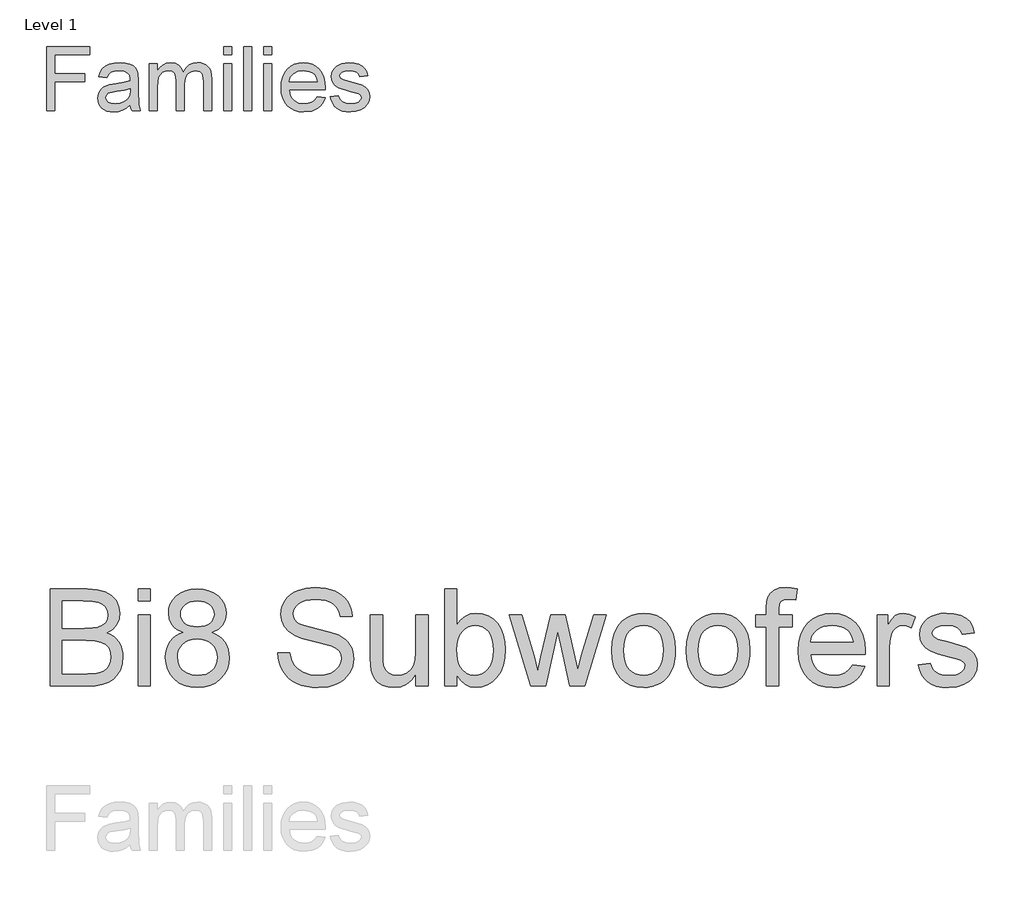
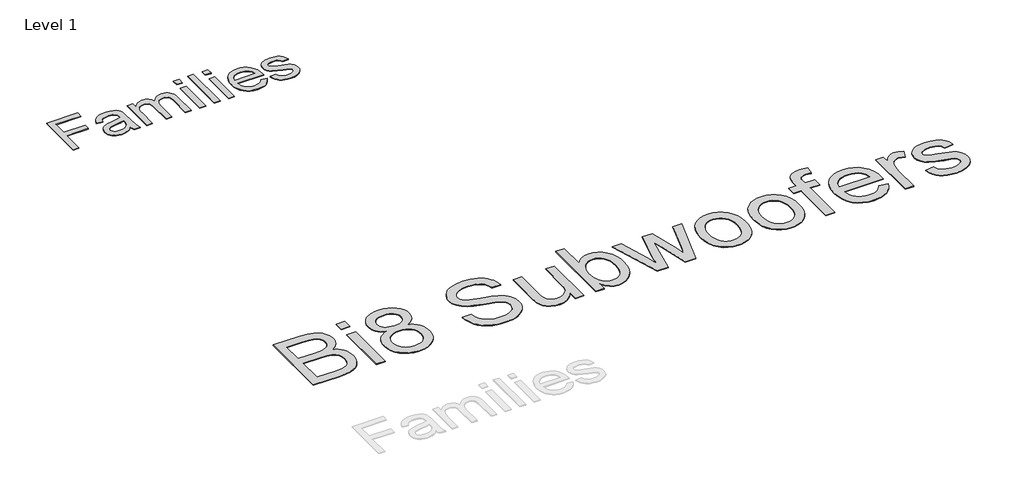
# One storey, part 2 of 8: 2 proxies.
"""IFC4 building model written with IfcOpenShell, lengths in millimetres."""

from ifc_helpers import new_model, si_unit, origin, origin_with_axes, place, context, project, spatial, polyline, outline, extrude, element, save

model = new_model("IFC4")

# Units and contexts
model_context = context("Model", 3, world=origin())
ifc_project = project(units=[si_unit("LENGTHUNIT", "METRE", prefix="MILLI")], contexts=[model_context])

# Site, building, storey
site = spatial("IfcSite", under=ifc_project)
building = spatial("IfcBuilding", under=site)
storey = spatial("IfcBuildingStorey", under=building, Name="Level 1", Elevation=0.0)

# Proxies
placement = place(None, origin())
element("IfcBuildingElementProxy", 1, Name="400mm Arial", ObjectType="400mm Arial", at=placement, inside=storey, context=model_context, shape_type="SweptSolid", body=[
    extrude(outline(polyline([(-21056.720891, 12851.3054836), (-21056.720891, 13243.0630593), (-20793.5087698, 13243.0630593), (-20793.5087698, 13194.0933624), (-21007.7511941, 13194.0933624), (-21007.7511941, 13077.7903321), (-20824.1148304, 13077.7903321), (-20824.1148304, 13028.8206351), (-21007.7511941, 13028.8206351), (-21007.7511941, 12851.3054836), (-21056.720891, 12851.3054836)])), origin_with_axes(), (0.0, 0.0, 1.0), 5.0),
    extrude(outline(polyline([(-20548.660285, 12888.0327563), (-20572.0571836, 12867.97144), (-20596.1475009, 12854.8443093), (-20621.4811893, 12847.5992809), (-20648.6082016, 12845.1842715), (-20670.4120309, 12846.6368638), (-20689.5318522, 12850.9946408), (-20705.9676654, 12858.2576024), (-20719.7194706, 12868.4257487), (-20730.5780466, 12880.8534831), (-20738.3341723, 12894.895209), (-20742.9878477, 12910.5509263), (-20744.5390729, 12927.8206351), (-20742.1957963, 12948.1210612), (-20735.1659668, 12966.5564305), (-20724.3223352, 12982.3376805), (-20710.5376524, 12994.6757487), (-20676.2493001, 13010.7439305), (-20633.879035, 13018.1085139), (-20583.8094327, 13025.855673), (-20548.9472168, 13034.9418472), (-20548.660285, 13045.8452563), (-20552.0317338, 13067.6998965), (-20562.1460804, 13081.9986654), (-20584.7658721, 13092.6151427), (-20616.2805501, 13096.1539684), (-20645.4519516, 13093.7987364), (-20665.8241107, 13086.7330404), (-20679.7163929, 13073.6656872), (-20689.4481638, 13053.3054836), (-20738.4178607, 13059.4266957), (-20729.9175056, 13086.2069987), (-20717.2327282, 13107.2486654), (-20699.1799346, 13123.3407582), (-20674.5755312, 13135.2723396), (-20644.4835568, 13142.660834), (-20609.9680501, 13145.1236654), (-20576.8632916, 13142.9477658), (-20550.6209857, 13136.4200669), (-20530.8346458, 13126.6046076), (-20517.097785, 13114.5654268), (-20507.9876997, 13099.6808387), (-20502.0816865, 13081.3291578), (-20499.690588, 13038.480673), (-20499.690588, 12977.5554836), (-20497.2038456, 12892.4801995), (-20487.4481638, 12851.3054836), (-20536.4178607, 12851.3054836), (-20544.2606638, 12868.3301048), (-20548.660285, 12888.0327563)]), holes=[polyline([(-20548.660285, 12985.9721502), (-20581.5618001, 12977.8185044), (-20627.6621789, 12970.9560518), (-20669.7933342, 12963.0176048), (-20680.7565208, 12957.5898112), (-20688.8743001, 12950.105673), (-20693.8956069, 12941.1390536), (-20695.5693759, 12931.2638169), (-20691.9229507, 12916.7020271), (-20680.9836751, 12904.7704457), (-20662.990659, 12896.8080877), (-20638.1830122, 12894.1539684), (-20611.8809289, 12897.0830641), (-20588.6394516, 12905.870351), (-20569.7975956, 12918.8181493), (-20556.6943759, 12934.228779), (-20550.8840066, 12950.105673), (-20548.9472168, 12972.103779), (-20548.660285, 12985.9721502)])]), origin_with_axes(), (0.0, 0.0, 1.0), 5.0),
    extrude(outline(polyline([(-20432.3572547, 12851.3054836), (-20432.3572547, 13139.0024533), (-20383.3875577, 13139.0024533), (-20383.3875577, 13091.6587033), (-20368.658391, 13113.405744), (-20349.720891, 13130.4423207), (-20327.2206543, 13141.4533292), (-20301.8032774, 13145.1236654), (-20274.5686657, 13141.3815963), (-20252.7379365, 13130.1553889), (-20236.4306448, 13112.1862838), (-20225.7663456, 13088.2155215), (-20207.9167954, 13113.1128344), (-20187.5565918, 13130.8966294), (-20164.6857348, 13141.5669064), (-20139.3042244, 13145.1236654), (-20119.7002057, 13143.6441732), (-20102.4932632, 13139.2056966), (-20087.683397, 13131.8082357), (-20075.2706069, 13121.4517904), (-20065.4581365, 13108.0168058), (-20058.4492291, 13091.3837269), (-20054.2438846, 13071.5525539), (-20052.8421032, 13048.5232866), (-20052.8421032, 12851.3054836), (-20101.8118001, 12851.3054836), (-20101.8118001, 13027.4816199), (-20106.3548872, 13068.369404), (-20112.7391202, 13079.6434334), (-20122.8056448, 13088.5024533), (-20135.7534431, 13094.2410896), (-20150.7814971, 13096.1539684), (-20177.3107348, 13091.2522165), (-20198.9382206, 13076.5469608), (-20207.3279874, 13065.2669537), (-20213.320678, 13051.03394), (-20218.1148304, 13013.7088927), (-20218.1148304, 12851.3054836), (-20267.0845274, 12851.3054836), (-20267.0845274, 13032.9333245), (-20269.9179791, 13060.6222449), (-20278.4183342, 13080.3727184), (-20293.3746552, 13092.2086559), (-20315.5760047, 13096.1539684), (-20334.4417717, 13093.5237601), (-20351.8250577, 13085.6331351), (-20366.1716486, 13072.6733813), (-20375.9273304, 13054.8357866), (-20381.5225009, 13030.0879173), (-20383.3875577, 12996.3973396), (-20383.3875577, 12851.3054836), (-20432.3572547, 12851.3054836)])), origin_with_axes(), (0.0, 0.0, 1.0), 5.0),
    extrude(outline(polyline([(-19979.3875577, 12851.3054836), (-19979.3875577, 13139.0024533), (-19930.4178607, 13139.0024533), (-19930.4178607, 12851.3054836), (-19979.3875577, 12851.3054836)])), origin_with_axes(), (0.0, 0.0, 1.0), 5.0),
    extrude(outline(polyline([(-19979.3875577, 13194.0933624), (-19979.3875577, 13243.0630593), (-19930.4178607, 13243.0630593), (-19930.4178607, 13194.0933624), (-19979.3875577, 13194.0933624)])), origin_with_axes(), (0.0, 0.0, 1.0), 5.0),
    extrude(outline(polyline([(-19856.9633153, 12851.3054836), (-19856.9633153, 13243.0630593), (-19807.9936183, 13243.0630593), (-19807.9936183, 12851.3054836), (-19856.9633153, 12851.3054836)])), origin_with_axes(), (0.0, 0.0, 1.0), 5.0),
    extrude(outline(polyline([(-19734.5390729, 12851.3054836), (-19734.5390729, 13139.0024533), (-19685.5693759, 13139.0024533), (-19685.5693759, 12851.3054836), (-19734.5390729, 12851.3054836)])), origin_with_axes(), (0.0, 0.0, 1.0), 5.0),
    extrude(outline(polyline([(-19734.5390729, 13194.0933624), (-19734.5390729, 13243.0630593), (-19685.5693759, 13243.0630593), (-19685.5693759, 13194.0933624), (-19734.5390729, 13194.0933624)])), origin_with_axes(), (0.0, 0.0, 1.0), 5.0),
    extrude(outline(polyline([(-19410.6886941, 12937.0024533), (-19362.6754365, 12930.8812411), (-19370.0370309, 12911.6508316), (-19379.975034, 12894.7039211), (-19392.4894457, 12880.0405096), (-19407.580266, 12867.6605972), (-19425.0920736, 12857.8272047), (-19444.8694469, 12850.8033529), (-19491.220891, 12845.1842715), (-19521.605775, 12847.6082475), (-19548.6789876, 12854.8801758), (-19572.4405288, 12867.0000563), (-19592.8903986, 12883.9678889), (-19609.3351784, 12905.3114317), (-19621.0814497, 12930.5584429), (-19628.1292125, 12959.7089223), (-19630.4784668, 12992.7628699), (-19628.1053015, 13026.937645), (-19620.9858058, 13057.0595082), (-19609.1199796, 13083.1284594), (-19592.5078229, 13105.1444987), (-19572.1117528, 13122.6353841), (-19548.8941865, 13135.1288737), (-19522.855124, 13142.6249675), (-19493.9945653, 13145.1236654), (-19466.0635461, 13142.6309452), (-19440.8045795, 13135.1527847), (-19418.2176654, 13122.6891839), (-19398.3028039, 13105.2401427), (-19382.0463231, 13083.2719253), (-19370.4345511, 13057.2507961), (-19363.4674879, 13027.1767549), (-19361.1451335, 12993.0498018), (-19361.4320653, 12979.8509381), (-19581.5087698, 12979.8509381), (-19578.6723292, 12960.3096858), (-19573.0323257, 12943.1953983), (-19564.5887592, 12928.5080759), (-19553.3416297, 12916.2477184), (-19524.9234242, 12899.6774059), (-19490.2644516, 12894.1539684), (-19464.2014782, 12896.7124438), (-19442.2511941, 12904.3878699), (-19424.4135994, 12917.6584665), (-19410.6886941, 12937.0024533)]), holes=[polyline([(-19581.5087698, 13028.8206351), (-19410.1148304, 13028.8206351), (-19416.7381732, 13054.6923207), (-19429.721838, 13073.199423), (-19443.076123, 13083.2420366), (-19458.2715539, 13090.4153321), (-19494.1858532, 13096.1539684), (-19527.1949677, 13091.5750148), (-19554.4893569, 13077.838154), (-19573.4627234, 13056.4258671), (-19581.5087698, 13028.8206351)])]), origin_with_axes(), (0.0, 0.0, 1.0), 5.0),
    extrude(outline(polyline([(-19330.5390729, 12937.0024533), (-19281.5693759, 12943.1236654), (-19273.8461278, 12922.1776427), (-19258.9017622, 12906.7789684), (-19236.6406354, 12897.3102184), (-19206.9671032, 12894.1539684), (-19177.6522357, 12897.0471976), (-19157.0409668, 12905.7268851), (-19144.8463645, 12918.3040631), (-19140.7814971, 12932.8897639), (-19144.8702755, 12945.371298), (-19157.1366107, 12954.8878699), (-19207.5409668, 12968.8518851), (-19281.2824441, 12992.8106919), (-19299.9449677, 13004.8498728), (-19313.4666297, 13020.7865442), (-19321.680053, 13039.6044893), (-19324.4178607, 13060.2874911), (-19322.2180501, 13079.2608576), (-19315.6186183, 13096.775654), (-19305.2173399, 13112.1384618), (-19291.6119895, 13124.6558624), (-19260.4798872, 13139.1459192), (-19218.3487319, 13145.1236654), (-19186.4753891, 13142.7206114), (-19158.7625577, 13135.5114495), (-19136.4775198, 13124.2015536), (-19120.8875577, 13109.496298), (-19110.5580122, 13090.3077326), (-19104.0542244, 13065.5479078), (-19153.0239213, 13059.4266957), (-19159.2049109, 13074.8373254), (-19171.4353797, 13086.4461086), (-19189.8348825, 13093.7270035), (-19214.5229744, 13096.1539684), (-19242.6422925, 13093.8346029), (-19261.3885047, 13086.8765063), (-19271.933249, 13076.8338927), (-19275.4481638, 13065.260976), (-19269.6138835, 13051.010029), (-19251.345891, 13040.2022639), (-19209.1669138, 13029.7770745), (-19137.2904933, 13006.7268851), (-19118.3051713, 12995.7039211), (-19103.9107585, 12980.6160896), (-19094.8365397, 12961.4155688), (-19091.8118001, 12938.0545366), (-19095.3625814, 12913.9044419), (-19106.0149251, 12891.1890063), (-19123.3623446, 12871.6895982), (-19146.9983532, 12857.1875858), (-19175.5480691, 12848.1851), (-19207.6366107, 12845.1842715), (-19233.9924938, 12846.630886), (-19257.0127944, 12850.9707298), (-19276.6975127, 12858.2038027), (-19293.0466486, 12868.3301048), (-19306.4009336, 12881.3018141), (-19317.1010994, 12897.0711086), (-19325.1471458, 12915.6379883), (-19330.5390729, 12937.0024533)])), origin_with_axes(), (0.0, 0.0, 1.0), 5.0),
])
element("IfcBuildingElementProxy", 2, Name="600mm Arial", ObjectType="600mm Arial", at=placement, inside=storey, context=model_context, shape_type="SweptSolid", body=[
    extrude(outline(polyline([(-21034.9539913, 9351.3054836), (-21034.9539913, 9942.0747143), (-20809.521299, 9942.0747143), (-20747.520097, 9937.7297624), (-20699.1126451, 9924.6949066), (-20662.0092797, 9902.6456278), (-20646.8380057, 9888.118885), (-20633.9203374, 9871.2574066), (-20616.2340393, 9834.3343297), (-20610.3386067, 9795.6804836), (-20615.2965393, 9760.1095701), (-20630.1703374, 9726.6660605), (-20655.068174, 9697.4052432), (-20690.098222, 9674.3824066), (-20667.810061, 9664.8812047), (-20648.2532701, 9652.5314451), (-20631.4278494, 9637.3331278), (-20617.333799, 9619.2862528), (-20606.1964792, 9598.9406999), (-20598.2412509, 9576.846349), (-20593.4681139, 9553.0031999), (-20591.8770682, 9527.4112528), (-20596.2220201, 9486.2153393), (-20609.2568759, 9448.0122143), (-20628.7100009, 9415.5242336), (-20652.3097605, 9391.4737528), (-20681.2100009, 9374.0578874), (-20716.5645682, 9361.4737528), (-20759.5273086, 9353.8475509), (-20811.2520682, 9351.3054836), (-21034.9539913, 9351.3054836)]), holes=[polyline([(-20961.1078374, 9702.0747143), (-20826.2520682, 9702.0747143), (-20779.0886067, 9703.6612528), (-20747.5020682, 9708.4208682), (-20719.9359624, 9719.3643778), (-20700.1222605, 9735.752599), (-20688.1691355, 9757.3331278), (-20684.1847605, 9783.8535605), (-20687.8987028, 9809.5987528), (-20699.0405297, 9832.0266374), (-20717.1054336, 9849.532647), (-20741.5886067, 9860.5122143), (-20779.160722, 9866.299474), (-20836.4924528, 9868.2285605), (-20961.1078374, 9868.2285605), (-20961.1078374, 9702.0747143)]), polyline([(-20961.1078374, 9425.1516374), (-20809.6655297, 9425.1516374), (-20754.8578374, 9428.0362528), (-20729.4191355, 9434.4364932), (-20708.4876451, 9444.1179836), (-20691.4684143, 9457.9821663), (-20677.7664913, 9476.9304836), (-20668.7340393, 9500.1155797), (-20665.723222, 9526.690099), (-20669.2568759, 9557.5554836), (-20679.8578374, 9584.0939451), (-20698.3734624, 9604.845147), (-20725.6511067, 9618.3487528), (-20764.286924, 9625.7586086), (-20816.8770682, 9628.2285605), (-20961.1078374, 9628.2285605), (-20961.1078374, 9425.1516374)])]), origin_with_axes(), (0.0, 0.0, 1.0), 5.0),
    extrude(outline(polyline([(-20499.5693759, 9868.2285605), (-20499.5693759, 9942.0747143), (-20425.723222, 9942.0747143), (-20425.723222, 9868.2285605), (-20499.5693759, 9868.2285605)])), origin_with_axes(), (0.0, 0.0, 1.0), 5.0),
    extrude(outline(polyline([(-20499.5693759, 9351.3054836), (-20499.5693759, 9785.1516374), (-20425.723222, 9785.1516374), (-20425.723222, 9351.3054836), (-20499.5693759, 9351.3054836)])), origin_with_axes(), (0.0, 0.0, 1.0), 5.0),
    extrude(outline(polyline([(-20225.8193759, 9676.690099), (-20265.3566355, 9696.1612528), (-20280.7036908, 9708.4929836), (-20293.1030297, 9722.5554836), (-20309.4912509, 9755.3319259), (-20314.9539913, 9793.9497143), (-20311.9792317, 9824.0669018), (-20303.0549528, 9851.6780797), (-20288.1811547, 9876.783248), (-20267.3578374, 9899.3824066), (-20241.5856018, 9918.0602913), (-20211.865049, 9931.4016374), (-20178.1961788, 9939.4064451), (-20140.5789913, 9942.0747143), (-20102.7815153, 9939.3433441), (-20068.8602413, 9931.1492336), (-20038.8151692, 9917.4923826), (-20012.646299, 9898.3727913), (-19991.4443759, 9875.3319259), (-19976.3001451, 9849.9112528), (-19967.2136067, 9822.110772), (-19964.1847605, 9791.9304836), (-19969.5753855, 9754.5566855), (-19985.7472605, 9722.3391374), (-20012.880674, 9696.1071663), (-20051.1559143, 9676.690099), (-20026.8845802, 9666.3640773), (-20005.7051932, 9653.2706278), (-19987.6177533, 9637.4097504), (-19972.6222605, 9618.7814451), (-19960.8539312, 9597.8003754), (-19952.4479817, 9574.8812047), (-19947.4044119, 9550.0239331), (-19945.723222, 9523.2285605), (-19949.0585586, 9486.3956278), (-19959.0645682, 9452.627599), (-19975.7412509, 9421.924474), (-19999.0886067, 9394.2862528), (-20027.880674, 9371.4437047), (-20060.8914913, 9355.127599), (-20098.1210586, 9345.3379355), (-20139.5693759, 9342.0747143), (-20181.0176932, 9345.3514571), (-20218.2472605, 9355.1816855), (-20251.2580778, 9371.5653994), (-20280.0501451, 9394.502599), (-20303.3975009, 9422.3346302), (-20320.0741836, 9453.4028393), (-20330.0801932, 9487.7072264), (-20333.4155297, 9525.2477913), (-20331.6667317, 9553.2646182), (-20326.4203374, 9578.9016374), (-20317.676347, 9602.158849), (-20305.4347605, 9623.0362528), (-20289.9660105, 9641.1552432), (-20271.5405297, 9656.1372143), (-20250.1583182, 9667.9821663), (-20225.8193759, 9676.690099)]), holes=[polyline([(-20259.5693759, 9527.8439451), (-20256.4864432, 9499.5927432), (-20247.2376451, 9472.2429836), (-20230.1643278, 9448.3908201), (-20203.6078374, 9430.6324066), (-20171.8049528, 9419.5987528), (-20138.9924528, 9415.9208682), (-20112.2917317, 9417.8544619), (-20088.7280297, 9423.6552432), (-20068.301347, 9433.3232119), (-20051.0116836, 9446.8583682), (-20037.255674, 9463.3772985), (-20027.4299528, 9481.9965893), (-20021.5345201, 9502.7162408), (-20019.5693759, 9525.5362528), (-20021.5976211, 9548.721349), (-20027.6823567, 9569.815099), (-20037.8235826, 9588.8175028), (-20052.021299, 9605.7285605), (-20069.7797124, 9619.610772), (-20090.6030297, 9629.5266374), (-20114.4912509, 9635.4761566), (-20141.4443759, 9637.4593297), (-20167.7529696, 9635.5031999), (-20191.005674, 9629.6348105), (-20211.2024889, 9619.8541615), (-20228.3434143, 9606.1612528), (-20242.0047725, 9589.5296422), (-20251.7628855, 9570.9328874), (-20257.6177533, 9550.3709884), (-20259.5693759, 9527.8439451)]), polyline([(-20241.1078374, 9791.7862528), (-20239.4717196, 9774.8571663), (-20234.5633663, 9759.5506759), (-20226.3827773, 9745.8667816), (-20214.9299528, 9733.8054836), (-20200.3491235, 9723.9617336), (-20182.7845201, 9716.9304836), (-20138.7039913, 9711.3054836), (-20095.6511067, 9716.8944259), (-20078.3975009, 9723.8806038), (-20063.9924528, 9733.6612528), (-20052.6342797, 9745.470147), (-20044.521299, 9758.5410605), (-20039.6535105, 9772.8739932), (-20038.0309143, 9788.4689451), (-20039.707597, 9804.6723706), (-20044.7376451, 9819.532647), (-20053.1210586, 9833.0497744), (-20064.8578374, 9845.2237528), (-20079.5874047, 9855.2883562), (-20096.9491836, 9862.4773586), (-20116.943174, 9866.79076), (-20139.5693759, 9868.2285605), (-20182.4600009, 9862.6035605), (-20199.8353014, 9855.5723105), (-20214.4972605, 9845.7285605), (-20226.1393879, 9833.9196663), (-20234.4551932, 9820.9929836), (-20239.4446764, 9806.9485124), (-20241.1078374, 9791.7862528)])]), origin_with_axes(), (0.0, 0.0, 1.0), 5.0),
    extrude(outline(polyline([(-19650.3386067, 9554.3824066), (-19576.4924528, 9554.3824066), (-19568.0188951, 9513.4028393), (-19552.6943759, 9480.4641374), (-19528.7881259, 9454.3223105), (-19494.5693759, 9433.7333682), (-19452.7424528, 9420.3739932), (-19406.0116836, 9415.9208682), (-19364.8698567, 9419.2922624), (-19328.848222, 9429.4064451), (-19299.6595201, 9445.4160605), (-19279.0164913, 9466.4737528), (-19266.738847, 9490.6504355), (-19262.646299, 9516.017022), (-19265.7112028, 9540.7345701), (-19274.9059143, 9562.0987528), (-19293.583799, 9580.3259163), (-19325.098222, 9595.6324066), (-19432.6222605, 9623.829522), (-19503.2051932, 9642.4893778), (-19548.3674528, 9660.2477913), (-19585.1282701, 9685.0915413), (-19611.1799528, 9715.1997143), (-19626.7027893, 9749.923272), (-19631.8770682, 9788.6131759), (-19630.2770081, 9810.603861), (-19625.4768278, 9831.8643778), (-19617.4765273, 9852.3947264), (-19606.2761067, 9872.1949066), (-19592.0017677, 9890.4581278), (-19574.7797124, 9906.377599), (-19554.6099408, 9919.9533201), (-19531.4924528, 9931.1852913), (-19479.5333182, 9946.2754355), (-19422.021299, 9951.3054836), (-19359.7136067, 9946.0410605), (-19305.1943759, 9930.2477913), (-19281.3422124, 9918.4839691), (-19260.410722, 9904.2501951), (-19242.3999047, 9887.5464691), (-19227.3097605, 9868.3727913), (-19215.2574768, 9847.2880557), (-19206.3602413, 9824.8511566), (-19200.6180538, 9801.0620941), (-19198.0309143, 9775.9208682), (-19271.8770682, 9775.9208682), (-19276.816972, 9799.4845701), (-19285.4347605, 9819.9833682), (-19297.7304336, 9837.4172624), (-19313.7039913, 9851.7862528), (-19333.6529095, 9863.018224), (-19357.8746643, 9871.0410605), (-19386.3692557, 9875.8547624), (-19419.1366836, 9877.4593297), (-19452.9497845, 9875.8727913), (-19481.8410105, 9871.1131759), (-19505.8103615, 9863.1804836), (-19524.8578374, 9852.0747143), (-19539.3710586, 9838.7243538), (-19549.7376451, 9824.0578874), (-19555.957597, 9808.0753153), (-19558.0309143, 9790.7766374), (-19552.1535105, 9762.3992336), (-19534.521299, 9739.5747143), (-19518.3313951, 9729.424474), (-19492.8386067, 9719.1660605), (-19413.9443759, 9698.3247143), (-19332.5261067, 9678.5290413), (-19283.271299, 9661.2574066), (-19241.1739432, 9634.4665413), (-19224.8984023, 9618.7183441), (-19211.8049528, 9601.4016374), (-19201.7403494, 9582.6065653), (-19194.551347, 9562.423272), (-19188.8001451, 9517.892022), (-19190.4542917, 9494.7925629), (-19195.4167317, 9472.3691855), (-19203.6874648, 9450.6218898), (-19215.2664913, 9429.5506759), (-19229.9509865, 9409.971349), (-19247.5381259, 9392.6997143), (-19268.0279095, 9377.735772), (-19291.4203374, 9365.079522), (-19317.0348206, 9355.0149187), (-19344.1907701, 9347.8259163), (-19403.1270682, 9342.0747143), (-19440.9020081, 9343.6251951), (-19475.4768278, 9348.2766374), (-19506.8515273, 9356.0290413), (-19535.0261067, 9366.8824066), (-19560.1718398, 9380.8547624), (-19582.4600009, 9397.9641374), (-19601.8905898, 9418.2105316), (-19618.4636067, 9441.5939451), (-19631.8139672, 9467.3571663), (-19641.5765874, 9494.7429836), (-19647.7514672, 9523.751397), (-19650.3386067, 9554.3824066)])), origin_with_axes(), (0.0, 0.0, 1.0), 5.0),
    extrude(outline(polyline([(-18810.3386067, 9351.3054836), (-18810.3386067, 9425.8727913), (-18837.0573567, 9389.2111326), (-18868.1751451, 9363.0242336), (-18903.691972, 9347.3120941), (-18943.6078374, 9342.0747143), (-18979.5753855, 9345.752599), (-19013.0549528, 9356.7862528), (-19041.1438951, 9373.3727913), (-19060.9395682, 9393.7093297), (-19074.2628855, 9418.408849), (-19082.9347605, 9448.0843297), (-19087.2616836, 9516.7381759), (-19087.2616836, 9785.1516374), (-19013.4155297, 9785.1516374), (-19013.4155297, 9551.4977913), (-19012.2977413, 9504.767022), (-19008.9443759, 9476.2093297), (-18998.1811547, 9451.095147), (-18979.7376451, 9432.002599), (-18954.8398086, 9419.9413009), (-18924.7136067, 9415.9208682), (-18892.8566355, 9420.0314451), (-18863.0549528, 9432.3631759), (-18838.4816355, 9451.7802432), (-18822.3097605, 9477.1468297), (-18813.3313951, 9511.8884163), (-18810.3386067, 9559.4304836), (-18810.3386067, 9785.1516374), (-18736.4924528, 9785.1516374), (-18736.4924528, 9351.3054836), (-18810.3386067, 9351.3054836)])), origin_with_axes(), (0.0, 0.0, 1.0), 5.0),
    extrude(outline(polyline([(-18561.1078374, 9351.3054836), (-18634.9539913, 9351.3054836), (-18634.9539913, 9942.0747143), (-18561.1078374, 9942.0747143), (-18561.1078374, 9722.9881759), (-18536.8229817, 9754.2231518), (-18509.4011067, 9776.533849), (-18478.8422124, 9789.9202672), (-18445.146299, 9794.3824066), (-18407.1054336, 9790.361974), (-18371.1559143, 9778.3006759), (-18339.3530297, 9758.955724), (-18313.7520682, 9733.0843297), (-18293.6859624, 9700.938897), (-18278.4876451, 9662.7718297), (-18268.9143278, 9620.1696663), (-18265.723222, 9574.7189451), (-18269.0270081, 9522.2730316), (-18278.9383663, 9476.1372143), (-18295.4572966, 9436.3114932), (-18318.583799, 9402.7958682), (-18346.3437148, 9376.2303634), (-18376.7628855, 9357.2550028), (-18409.841311, 9345.8697865), (-18445.5789913, 9342.0747143), (-18480.3836788, 9346.9695461), (-18511.240049, 9361.6540413), (-18538.1481018, 9386.1281999), (-18561.1078374, 9420.392022), (-18561.1078374, 9351.3054836)]), holes=[polyline([(-18561.1078374, 9571.2574066), (-18556.0597605, 9509.6708682), (-18549.7496643, 9486.3415413), (-18540.9155297, 9467.9881759), (-18523.0218999, 9445.2087288), (-18502.2256259, 9428.9376951), (-18478.5267076, 9419.1750749), (-18451.9251451, 9415.9208682), (-18429.8398086, 9418.3187047), (-18409.3049528, 9425.5122143), (-18390.3205778, 9437.501397), (-18372.8866836, 9454.2862528), (-18358.3103615, 9475.8217095), (-18347.8987028, 9502.0626951), (-18341.6517076, 9533.0092095), (-18339.5693759, 9568.6612528), (-18341.5660706, 9604.9893778), (-18347.5561547, 9636.2333682), (-18357.5396283, 9662.393224), (-18371.5164913, 9683.4689451), (-18388.3238831, 9699.6858922), (-18406.7989432, 9711.2694259), (-18426.9416716, 9718.2195461), (-18448.7520682, 9720.5362528), (-18470.8374047, 9718.1384163), (-18491.3722605, 9710.9449066), (-18510.3566355, 9698.955724), (-18527.7905297, 9682.1708682), (-18542.3668518, 9660.8517576), (-18552.7785105, 9635.2598105), (-18559.0255057, 9605.3950268), (-18561.1078374, 9571.2574066)])]), origin_with_axes(), (0.0, 0.0, 1.0), 5.0),
    extrude(outline(polyline([(-18110.6751451, 9351.3054836), (-18242.646299, 9785.1516374), (-18165.9155297, 9785.1516374), (-18091.0597605, 9532.0266374), (-18068.7039913, 9441.5939451), (-18050.3866836, 9528.7093297), (-17990.8193759, 9785.1516374), (-17902.8386067, 9785.1516374), (-17843.5597605, 9529.4304836), (-17827.2616836, 9450.5362528), (-17803.896299, 9533.7574066), (-17728.896299, 9785.1516374), (-17651.8770682, 9785.1516374), (-17784.8578374, 9351.3054836), (-17874.1366836, 9351.3054836), (-17930.8193759, 9605.7285605), (-17947.2616836, 9685.0554836), (-18020.3866836, 9351.3054836), (-18110.6751451, 9351.3054836)])), origin_with_axes(), (0.0, 0.0, 1.0), 5.0),
    extrude(outline(polyline([(-17619.5693759, 9568.2285605), (-17615.5759865, 9624.4154595), (-17603.5958182, 9672.8319259), (-17583.6288711, 9713.4779595), (-17555.6751451, 9746.3535605), (-17527.5321163, 9767.3661807), (-17496.4684143, 9782.3751951), (-17462.4840393, 9791.3806038), (-17425.5789913, 9794.3824066), (-17384.8383062, 9790.7270581), (-17348.0008663, 9779.7610124), (-17315.0666716, 9761.4842696), (-17286.035722, 9735.8968297), (-17262.341311, 9703.8640773), (-17245.4167317, 9666.251397), (-17235.2619841, 9623.0587889), (-17231.8770682, 9574.2862528), (-17233.3734624, 9534.7580076), (-17237.8626451, 9499.6828874), (-17245.3446163, 9469.0608922), (-17255.8193759, 9442.892022), (-17269.1562148, 9420.2883562), (-17285.224424, 9400.361974), (-17304.0240033, 9383.1128754), (-17325.5549528, 9368.5410605), (-17348.9789312, 9356.9620341), (-17373.457597, 9348.6913009), (-17398.9909504, 9343.728861), (-17425.5789913, 9342.0747143), (-17466.9146283, 9345.7165413), (-17504.0946163, 9356.642022), (-17537.1189552, 9374.8511566), (-17565.9876451, 9400.3439451), (-17589.4296523, 9432.6876951), (-17606.1739432, 9471.4497143), (-17616.2205177, 9516.6300028), (-17619.5693759, 9568.2285605)]), holes=[polyline([(-17545.723222, 9568.3727913), (-17543.5868038, 9532.5539812), (-17537.177549, 9501.5398586), (-17526.4954576, 9475.3304235), (-17511.5405297, 9453.9256759), (-17493.349424, 9437.2985725), (-17472.958799, 9425.4220701), (-17450.3686547, 9418.2961687), (-17425.5789913, 9415.9208682), (-17400.9155297, 9418.3096903), (-17378.4155297, 9425.4761566), (-17358.0789913, 9437.4202672), (-17339.9059143, 9454.142022), (-17324.9509865, 9475.7586086), (-17314.2688951, 9502.3872143), (-17307.8596403, 9534.0278393), (-17305.723222, 9570.6804836), (-17307.8731619, 9605.3634764), (-17314.3229817, 9635.5663009), (-17325.0726812, 9661.2889571), (-17340.1222605, 9682.5314451), (-17358.3629456, 9699.1585485), (-17378.6859624, 9711.0350509), (-17401.091311, 9718.1609523), (-17425.5789913, 9720.5362528), (-17450.3686547, 9718.1699667), (-17472.958799, 9711.0711086), (-17493.349424, 9699.2396783), (-17511.5405297, 9682.6756759), (-17526.4954576, 9661.3340292), (-17537.177549, 9635.1696663), (-17543.5868038, 9604.1825869), (-17545.723222, 9568.3727913)])]), origin_with_axes(), (0.0, 0.0, 1.0), 5.0),
    extrude(outline(polyline([(-17167.2616836, 9568.2285605), (-17163.2682942, 9624.4154595), (-17151.2881259, 9672.8319259), (-17131.3211788, 9713.4779595), (-17103.3674528, 9746.3535605), (-17075.224424, 9767.3661807), (-17044.160722, 9782.3751951), (-17010.176347, 9791.3806038), (-16973.271299, 9794.3824066), (-16932.5306139, 9790.7270581), (-16895.693174, 9779.7610124), (-16862.7589792, 9761.4842696), (-16833.7280297, 9735.8968297), (-16810.0336187, 9703.8640773), (-16793.1090393, 9666.251397), (-16782.9542917, 9623.0587889), (-16779.5693759, 9574.2862528), (-16781.0657701, 9534.7580076), (-16785.5549528, 9499.6828874), (-16793.036924, 9469.0608922), (-16803.5116836, 9442.892022), (-16816.8485225, 9420.2883562), (-16832.9167317, 9400.361974), (-16851.716311, 9383.1128754), (-16873.2472605, 9368.5410605), (-16896.6712389, 9356.9620341), (-16921.1499047, 9348.6913009), (-16946.6832581, 9343.728861), (-16973.271299, 9342.0747143), (-17014.606936, 9345.7165413), (-17051.786924, 9356.642022), (-17084.8112629, 9374.8511566), (-17113.6799528, 9400.3439451), (-17137.12196, 9432.6876951), (-17153.8662509, 9471.4497143), (-17163.9128254, 9516.6300028), (-17167.2616836, 9568.2285605)]), holes=[polyline([(-17093.4155297, 9568.3727913), (-17091.2791115, 9532.5539812), (-17084.8698567, 9501.5398586), (-17074.1877653, 9475.3304235), (-17059.2328374, 9453.9256759), (-17041.0417317, 9437.2985725), (-17020.6511067, 9425.4220701), (-16998.0609624, 9418.2961687), (-16973.271299, 9415.9208682), (-16948.6078374, 9418.3096903), (-16926.1078374, 9425.4761566), (-16905.771299, 9437.4202672), (-16887.598222, 9454.142022), (-16872.6432942, 9475.7586086), (-16861.9612028, 9502.3872143), (-16855.551948, 9534.0278393), (-16853.4155297, 9570.6804836), (-16855.5654696, 9605.3634764), (-16862.0152893, 9635.5663009), (-16872.7649889, 9661.2889571), (-16887.8145682, 9682.5314451), (-16906.0552533, 9699.1585485), (-16926.3782701, 9711.0350509), (-16948.7836187, 9718.1609523), (-16973.271299, 9720.5362528), (-16998.0609624, 9718.1699667), (-17020.6511067, 9711.0711086), (-17041.0417317, 9699.2396783), (-17059.2328374, 9682.6756759), (-17074.1877653, 9661.3340292), (-17084.8698567, 9635.1696663), (-17091.2791115, 9604.1825869), (-17093.4155297, 9568.3727913)])]), origin_with_axes(), (0.0, 0.0, 1.0), 5.0),
    extrude(outline(polyline([(-16678.0309143, 9351.3054836), (-16678.0309143, 9711.3054836), (-16742.646299, 9711.3054836), (-16742.646299, 9785.1516374), (-16678.0309143, 9785.1516374), (-16678.0309143, 9828.8535605), (-16676.083799, 9865.0194259), (-16670.2424528, 9890.440099), (-16655.3866836, 9914.9953874), (-16632.4539913, 9934.4304836), (-16600.3626451, 9947.0867336), (-16558.0309143, 9951.3054836), (-16525.9756259, 9949.2862528), (-16490.6751451, 9943.2285605), (-16501.4924528, 9873.9977913), (-16544.0405297, 9877.4593297), (-16572.1114432, 9874.3944259), (-16590.5549528, 9865.1997143), (-16600.7773086, 9847.6396182), (-16604.1847605, 9819.4785605), (-16604.1847605, 9785.1516374), (-16521.1078374, 9785.1516374), (-16521.1078374, 9711.3054836), (-16604.1847605, 9711.3054836), (-16604.1847605, 9351.3054836), (-16678.0309143, 9351.3054836)])), origin_with_axes(), (0.0, 0.0, 1.0), 5.0),
    extrude(outline(polyline([(-16152.7424528, 9480.5362528), (-16080.3386067, 9471.3054836), (-16091.4398687, 9442.3060845), (-16106.426347, 9416.7501951), (-16125.2980417, 9394.6378153), (-16148.0549528, 9375.9689451), (-16174.4627052, 9361.1402191), (-16204.286924, 9350.548272), (-16237.5276091, 9344.1931038), (-16274.1847605, 9342.0747143), (-16320.005073, 9345.7300629), (-16360.8313951, 9356.6961086), (-16396.6637268, 9374.9728514), (-16427.5020682, 9400.5602913), (-16452.3007461, 9432.7462889), (-16470.0140874, 9470.8187047), (-16480.6420922, 9514.7775389), (-16484.1847605, 9564.6227913), (-16480.6060345, 9616.158248), (-16469.8698567, 9661.5819259), (-16451.9762268, 9700.8938249), (-16426.9251451, 9734.0939451), (-16396.1679336, 9760.470147), (-16361.1559143, 9779.3102913), (-16321.8890874, 9790.6143778), (-16278.3674528, 9794.3824066), (-16236.247561, 9790.6233922), (-16198.1571163, 9779.346349), (-16164.0961187, 9760.5512768), (-16134.0645682, 9734.2381759), (-16109.5498446, 9701.1101711), (-16092.0393278, 9661.8703874), (-16081.5330177, 9616.5188249), (-16078.0309143, 9565.0554836), (-16078.4636067, 9545.1516374), (-16410.3386067, 9545.1516374), (-16406.0612629, 9515.6834884), (-16397.5561547, 9489.8751951), (-16384.8232821, 9467.7267576), (-16367.8626451, 9449.2381759), (-16347.6117437, 9434.6618538), (-16325.0080778, 9424.2501951), (-16300.0516475, 9418.0031999), (-16272.7424528, 9415.9208682), (-16233.4395682, 9419.7790413), (-16200.3386067, 9431.3535605), (-16173.4395682, 9451.3655797), (-16152.7424528, 9480.5362528)]), holes=[polyline([(-16410.3386067, 9618.9977913), (-16151.8770682, 9618.9977913), (-16161.865049, 9658.0122143), (-16170.4557942, 9673.3547624), (-16181.4443759, 9685.9208682), (-16201.582597, 9701.065099), (-16224.4972605, 9711.8824066), (-16250.1883663, 9718.3727913), (-16278.6559143, 9720.5362528), (-16304.62196, 9718.8099908), (-16328.4335586, 9713.6312047), (-16350.09071, 9704.9998946), (-16369.5934143, 9692.9160605), (-16385.9590994, 9677.9385966), (-16398.2051932, 9660.626397), (-16406.3316956, 9640.9794619), (-16410.3386067, 9618.9977913)])]), origin_with_axes(), (0.0, 0.0, 1.0), 5.0),
    extrude(outline(polyline([(-16004.1847605, 9351.3054836), (-16004.1847605, 9785.1516374), (-15939.5693759, 9785.1516374), (-15939.5693759, 9720.9689451), (-15915.6991836, 9758.1804836), (-15893.7039913, 9780.1035605), (-15871.6366836, 9790.8126951), (-15847.5501451, 9794.3824066), (-15810.771299, 9788.6852913), (-15773.4155297, 9771.5939451), (-15798.0789913, 9705.392022), (-15824.0405297, 9716.7501951), (-15850.0020682, 9720.5362528), (-15872.051347, 9716.8944259), (-15891.7568759, 9705.9689451), (-15907.676347, 9688.5891374), (-15918.3674528, 9665.5843297), (-15927.3458182, 9624.3343297), (-15930.3386067, 9579.3343297), (-15930.3386067, 9351.3054836), (-16004.1847605, 9351.3054836)])), origin_with_axes(), (0.0, 0.0, 1.0), 5.0),
    extrude(outline(polyline([(-15754.9539913, 9480.5362528), (-15681.1078374, 9489.767022), (-15676.645698, 9472.9280797), (-15669.4612028, 9458.1804836), (-15659.5543518, 9445.5242336), (-15646.9251451, 9434.9593297), (-15631.5375249, 9426.6300028), (-15613.3554336, 9420.6804836), (-15568.6078374, 9415.9208682), (-15524.4011067, 9420.283849), (-15507.2196163, 9425.7375749), (-15493.3193759, 9433.3727913), (-15474.9299528, 9452.3391374), (-15468.8001451, 9474.3343297), (-15470.3416115, 9484.3042816), (-15474.9660105, 9493.1564451), (-15493.4636067, 9507.5074066), (-15521.1198567, 9516.8824066), (-15569.473222, 9528.565099), (-15636.865049, 9548.0542816), (-15680.6751451, 9564.6949066), (-15708.818174, 9582.8499547), (-15729.208799, 9606.8824066), (-15741.5946163, 9635.2598105), (-15745.723222, 9666.4497143), (-15742.4059143, 9695.0614932), (-15732.4539913, 9721.4737528), (-15716.7688951, 9744.6408201), (-15696.2520682, 9763.517022), (-15675.8614432, 9775.3980316), (-15649.3049528, 9785.3679836), (-15618.6018278, 9792.1288009), (-15585.771299, 9794.3824066), (-15537.7063951, 9790.7586086), (-15495.9155297, 9779.8872143), (-15462.3097605, 9762.8319259), (-15438.8001451, 9740.6564451), (-15423.223222, 9711.720147), (-15413.4155297, 9674.3824066), (-15487.2616836, 9665.1516374), (-15496.582597, 9688.3908201), (-15515.0261067, 9705.8968297), (-15542.7725009, 9716.876397), (-15580.0020682, 9720.5362528), (-15622.4059143, 9717.0386566), (-15650.6751451, 9706.5458682), (-15666.5765874, 9691.4016374), (-15671.8770682, 9673.9497143), (-15669.677549, 9662.5915413), (-15663.0789913, 9652.4593297), (-15651.7929336, 9643.408849), (-15635.5309143, 9636.1612528), (-15571.9251451, 9620.440099), (-15463.535722, 9585.6804836), (-15434.9059143, 9569.0578874), (-15413.1991836, 9546.3054836), (-15399.5152893, 9517.3511566), (-15394.9539913, 9482.1227913), (-15400.3085586, 9445.704522), (-15416.3722605, 9411.4497143), (-15442.5321163, 9382.0446663), (-15478.1751451, 9360.1756759), (-15521.2280297, 9346.5999547), (-15569.6174528, 9342.0747143), (-15609.3620442, 9344.2562047), (-15644.0765874, 9350.8006759), (-15673.7610826, 9361.7081278), (-15698.4155297, 9376.9785605), (-15718.5537509, 9396.5398586), (-15734.6895682, 9420.3199066), (-15746.8229817, 9448.3187047), (-15754.9539913, 9480.5362528)])), origin_with_axes(), (0.0, 0.0, 1.0), 5.0),
])

save(model, "model.ifc")
